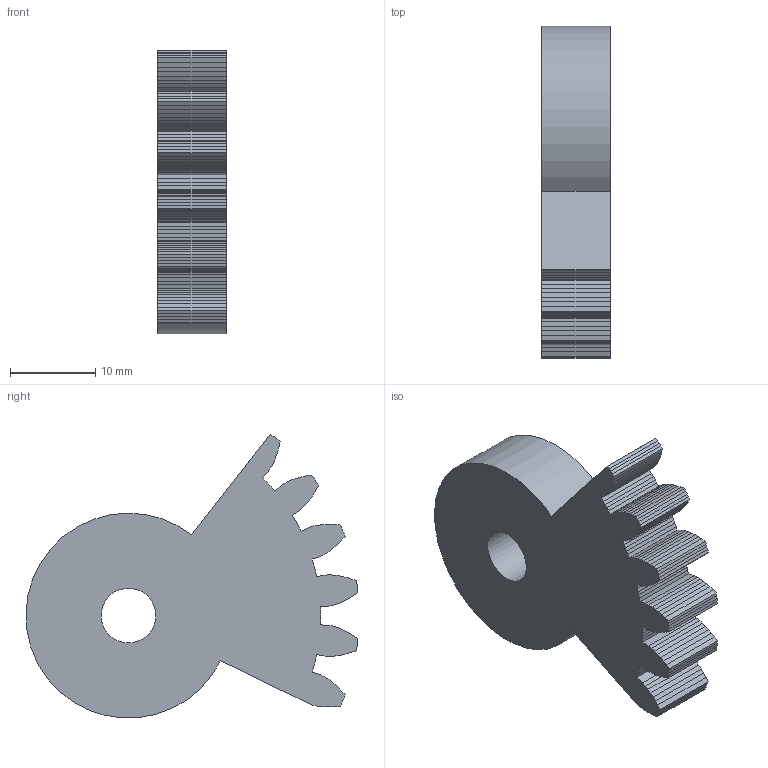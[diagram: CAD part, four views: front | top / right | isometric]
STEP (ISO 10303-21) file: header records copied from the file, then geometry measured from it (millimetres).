
FILE_DESCRIPTION(('Open CASCADE Model'),'2;1');
FILE_NAME('Open CASCADE Shape Model','2026-10-15T19:48:39',('Author'),( 'Open CASCADE'),'Open CASCADE STEP processor 7.9','Open CASCADE 7.9' ,'Unknown');
FILE_SCHEMA(('AUTOMOTIVE_DESIGN { 1 0 10303 214 1 1 1 1 }'));
Length unit declared in the file: millimetre
Products named in the file (1): Open CASCADE STEP translator 7.9 14
Bounding box: 8 x 38.86 x 33.23 mm (x, y, z)
Volume: 5953 mm3; surface area: 2900 mm2
Topology: 1 solids, 1 shells, 143 faces, 423 edges, 282 vertices
Faces by surface type: plane 141, cylinder 2
Full cylindrical faces by diameter (mm): 6.4 x1
Entity records: 10195 total; most frequent: CARTESIAN_POINT 1721, DIRECTION 1550, LINE 1253, VECTOR 1253, ORIENTED_EDGE 846, PCURVE 846, DEFINITIONAL_REPRESENTATION 846, EDGE_CURVE 423
